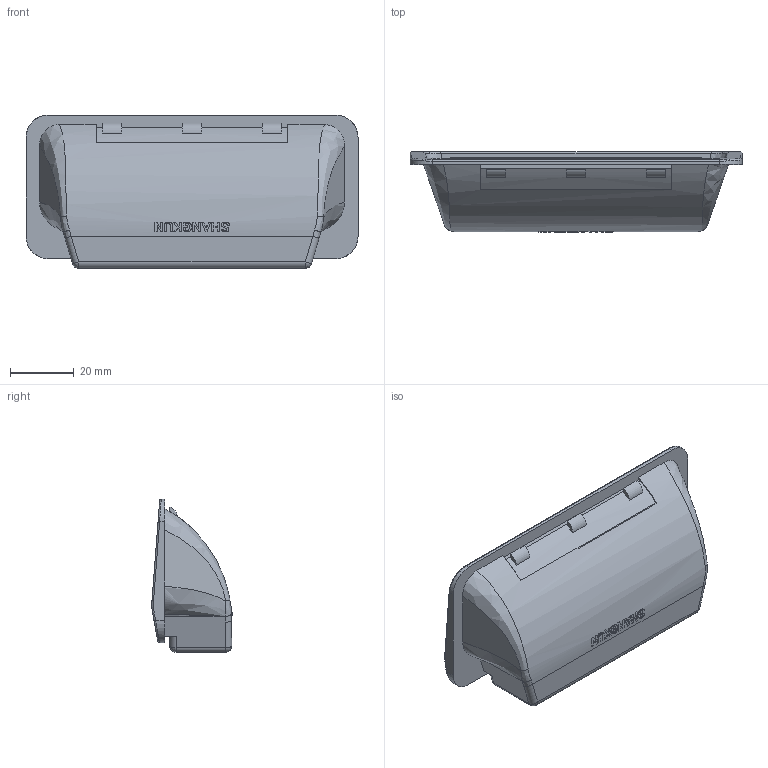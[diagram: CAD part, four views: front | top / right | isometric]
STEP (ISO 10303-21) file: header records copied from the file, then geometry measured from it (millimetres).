
FILE_DESCRIPTION (( 'STEP AP203' ), '1' );
FILE_NAME ('SK4-018-3W.STEP', '2018-04-03T06:14:27', ( 'admin' ), ( 'Microsoft' ), 'SwSTEP 2.0', 'SolidWorks 2015', '' );
FILE_SCHEMA (( 'CONFIG_CONTROL_DESIGN' ));
Length unit declared in the file: millimetre
Products named in the file (1): SK4-018-3W
Bounding box: 104 x 25.18 x 48.2 mm (x, y, z)
Volume: 18256.5 mm3; surface area: 19291.7 mm2
Topology: 1 solids, 1 shells, 356 faces, 913 edges, 576 vertices
Faces by surface type: plane 170, bspline 122, cylinder 54, sphere 6, torus 4
Entity records: 21092 total; most frequent: CARTESIAN_POINT 13432, ORIENTED_EDGE 1806, DIRECTION 1193, EDGE_CURVE 903, VERTEX_POINT 576, LINE 433, VECTOR 433, EDGE_LOOP 383
